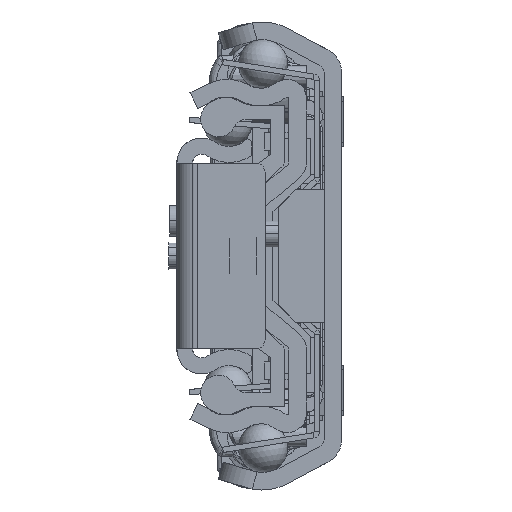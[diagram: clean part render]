
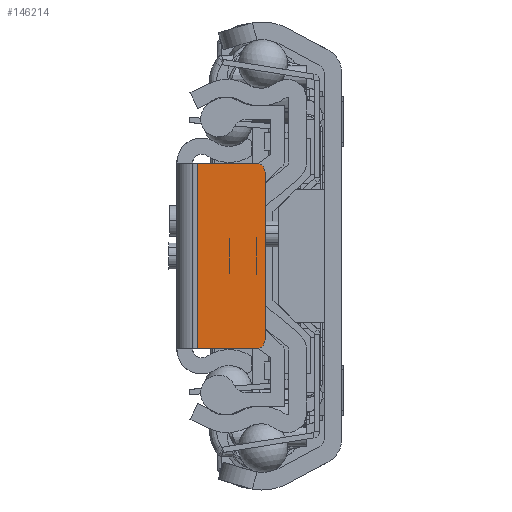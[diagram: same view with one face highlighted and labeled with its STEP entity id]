
A CAD part, left-side view. The second image highlights one B-rep face of the part: STEP entity #146214.
In plain terms, the highlighted planar face has unit normal (-1, 0, 0).
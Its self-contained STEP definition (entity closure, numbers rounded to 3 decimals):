
#141528=DIRECTION('',(0.,-1.,0.));
#141529=VECTOR('',#141528,6.7);
#141530=CARTESIAN_POINT('',(0.,-2.3,10.5));
#141531=LINE('',#141530,#141529);
#142389=DIRECTION('',(0.,-1.,0.));
#142390=VECTOR('',#142389,6.7);
#142391=CARTESIAN_POINT('',(0.,-2.3,-10.5));
#142392=LINE('',#142391,#142390);
#142393=CARTESIAN_POINT('',(0.,-9.,9.5));
#142394=DIRECTION('',(-1.,0.,0.));
#142395=DIRECTION('',(0.,-1.,0.));
#142396=AXIS2_PLACEMENT_3D('',#142393,#142394,#142395);
#142398=CARTESIAN_POINT('',(0.,-9.,-9.5));
#142399=DIRECTION('',(-1.,0.,0.));
#142400=DIRECTION('',(0.,0.,-1.));
#142401=AXIS2_PLACEMENT_3D('',#142398,#142399,#142400);
#142403=DIRECTION('',(0.,0.,1.));
#142404=VECTOR('',#142403,21.);
#142405=CARTESIAN_POINT('',(0.,-2.3,-10.5));
#142406=LINE('',#142405,#142404);
#142415=DIRECTION('',(0.,0.,1.));
#142416=VECTOR('',#142415,19.);
#142417=CARTESIAN_POINT('',(0.,-10.,-9.5));
#142418=LINE('',#142417,#142416);
#144738=CARTESIAN_POINT('',(0.,-2.3,-10.5));
#144739=CARTESIAN_POINT('',(0.,-2.3,10.5));
#144740=VERTEX_POINT('',#144738);
#144741=VERTEX_POINT('',#144739);
#144763=CARTESIAN_POINT('',(0.,-10.,9.5));
#144764=VERTEX_POINT('',#144763);
#144765=CARTESIAN_POINT('',(0.,-9.,10.5));
#144766=VERTEX_POINT('',#144765);
#144767=CARTESIAN_POINT('',(0.,-9.,-10.5));
#144768=CARTESIAN_POINT('',(0.,-10.,-9.5));
#144769=VERTEX_POINT('',#144767);
#144770=VERTEX_POINT('',#144768);
#146199=CARTESIAN_POINT('',(0.,-2.3,-10.5));
#146200=DIRECTION('',(-1.,0.,0.));
#146201=DIRECTION('',(0.,-1.,0.));
#146202=AXIS2_PLACEMENT_3D('',#146199,#146200,#146201);
#146203=PLANE('',#146202);
#146204=ORIENTED_EDGE('',*,*,#145704,.F.);
#146206=ORIENTED_EDGE('',*,*,#146205,.F.);
#146207=ORIENTED_EDGE('',*,*,#146190,.F.);
#146208=ORIENTED_EDGE('',*,*,#146180,.F.);
#146210=ORIENTED_EDGE('',*,*,#146209,.T.);
#146211=ORIENTED_EDGE('',*,*,#145681,.T.);
#146212=EDGE_LOOP('',(#146204,#146206,#146207,#146208,#146210,#146211));
#146213=FACE_OUTER_BOUND('',#146212,.F.);
#142397=CIRCLE('',#142396,1.);
#142402=CIRCLE('',#142401,1.);
#145681=EDGE_CURVE('',#144741,#144766,#141531,.T.);
#145704=EDGE_CURVE('',#144764,#144766,#142397,.T.);
#146180=EDGE_CURVE('',#144740,#144769,#142392,.T.);
#146190=EDGE_CURVE('',#144769,#144770,#142402,.T.);
#146205=EDGE_CURVE('',#144770,#144764,#142418,.T.);
#146209=EDGE_CURVE('',#144740,#144741,#142406,.T.);
#146214=ADVANCED_FACE('',(#146213),#146203,.T.);
